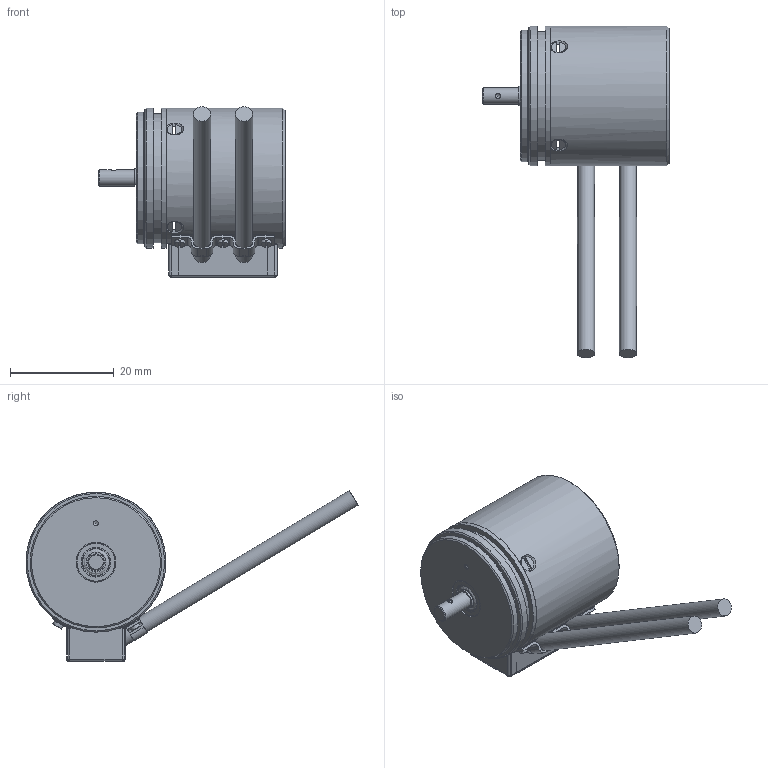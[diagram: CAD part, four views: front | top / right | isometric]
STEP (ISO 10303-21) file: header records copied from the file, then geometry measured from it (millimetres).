
FILE_DESCRIPTION(/* description */ ('Unknown'),/* implementation_level */ '2;1');
FILE_NAME(/* name */ 'P1514-1808_V5_2_THALES',/* time_stamp */ '2025-07-18T00:36:55+02:00',/* author */ ('Unknown'),/* organization */ ('Unknown'),/* preprocessor_version */ 'ST-DEVELOPER v19.4',/* originating_system */ 'Solid Edge',/* authorisation */ 'Unknown');
FILE_SCHEMA (('AUTOMOTIVE_DESIGN {1 0 10303 214 3 1 1}'));
Length unit declared in the file: millimetre
Products named in the file (54): P1514-1808_V5; P1514-1808-12_oa_0; 731257_oa_1; P1514-1808-29_oa_2; 731257_oa_3; P1514-1808-29_oa_4; P1514-1808-27_oa_5; 744040_oa_6; P1514-1808-26_oa_7; 744040; 744043_oa_8; P1514-1808-04_oa_9; P1514-1808-29_oa_10; P1514-1808-23_oa_11; P1514-1808-23_oa_12; 652220_oa_13; 652220_oa_14; 652220_oa_15; P1514-1808-32_oa_16; P1514-1808-14_oa_17; P1514-1808-31_oa_18; P1514-1808-37_oa_19; P1514-1808-39_oa_20; 652220_oa_21; 652178_oa_22; 652178_oa_23; 652178_oa_24; P1514-1808-37_oa_25; P1514-1808-29_oa_26; P1514-1808-29_oa_27; 652220_oa_28; P1514-1808-28_oa_29; P1514-1808-32_oa_30; P1514-1808-07_oa_31; P1514-1808-29_oa_32; 660002_oa_33; P1514-1808-40; 652178_oa_34; P1514-1808-42_oa_35; P1514-1808-29_oa_36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
Assembly tree (53 placements, depth 2):
  P1514-1808_V5
    P1514-1808-12_oa_0
    731257_oa_1
    P1514-1808-29_oa_2
    731257_oa_3
    P1514-1808-29_oa_4
    P1514-1808-27_oa_5
    744040_oa_6
    P1514-1808-26_oa_7
    744040
    744043_oa_8
    P1514-1808-04_oa_9
    P1514-1808-29_oa_10
    P1514-1808-23_oa_11
    P1514-1808-23_oa_12
    652220_oa_13
    652220_oa_14
    652220_oa_15
    P1514-1808-32_oa_16
    P1514-1808-14_oa_17
    P1514-1808-31_oa_18
    P1514-1808-37_oa_19
    P1514-1808-39_oa_20
    652220_oa_21
    652178_oa_22
    652178_oa_23
    652178_oa_24
    P1514-1808-37_oa_25
    P1514-1808-29_oa_26
    P1514-1808-29_oa_27
    652220_oa_28
    P1514-1808-28_oa_29
    P1514-1808-32_oa_30
    P1514-1808-07_oa_31
    P1514-1808-29_oa_32
    660002_oa_33
    P1514-1808-40
    652178_oa_34
    P1514-1808-42_oa_35
    P1514-1808-29_oa_36
    652220_oa_37
    P1514-1808-07_oa_38
    P1514-1808-29_oa_39
    P1514-1808-41_oa_40
    P1514-1808-30_oa_41
    P1514-1808-29_oa_42
    P1514-1808-24_oa_43
    P1514-1808-14_oa_44
    P1514-1808-29_oa_45
    P1514-1808-29_oa_46
    662708_oa_47
    P1514-1808-29_oa_48
    652178_oa_49
    P1514-1808-44
Bounding box: 36.15 x 64.06 x 32.96 mm (x, y, z)
Volume: 2904.9 mm3; surface area: 10928.9 mm2
Topology: 31 solids, 31 shells, 860 faces, 2163 edges, 1434 vertices
Faces by surface type: plane 555, cylinder 168, bspline 115, cone 20, torus 2
Full cylindrical faces by diameter (mm): 0.729 x6, 1 x8, 1.2 x1, 1.3 x12, 2 x6, 2.5 x1, 3.175 x3, 3.3 x2, 3.5 x2, 3.775 x1, 3.823 x1, 4.162 x1, 5.354 x1, 5.362 x1, 5.75 x2, 7.518 x1, 7.7 x1, 24 x1, 24.5 x1, 24.9 x1, 25.1 x1, 25.4 x1, 26 x2, 27 x3
Entity records: 34027 total; most frequent: CARTESIAN_POINT 9411, ORIENTED_EDGE 4130, DIRECTION 3649, EDGE_CURVE 2065, VERTEX_POINT 1414, LINE 1409, VECTOR 1409, AXIS2_PLACEMENT_3D 1120
